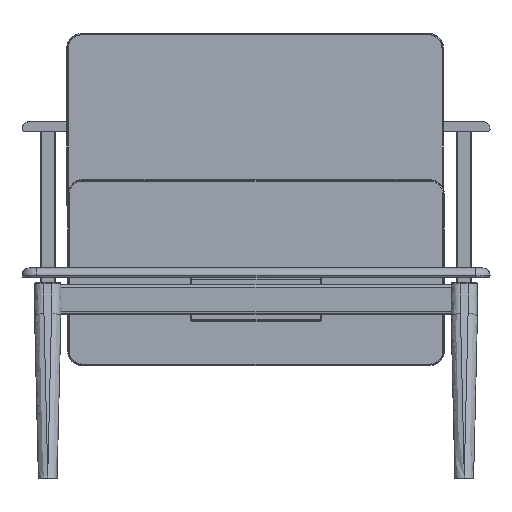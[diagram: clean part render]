
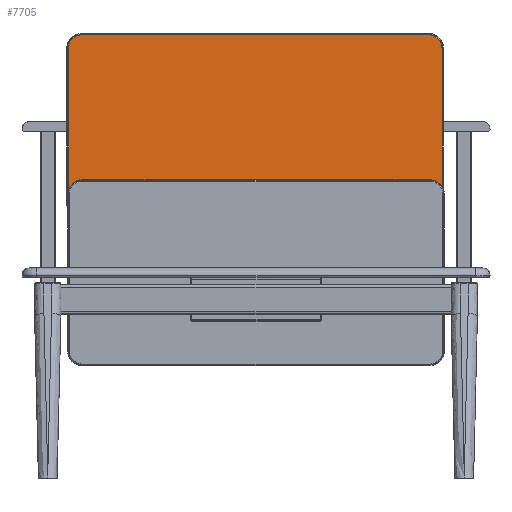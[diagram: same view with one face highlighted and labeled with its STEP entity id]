
A CAD part, front view. The second image highlights one B-rep face of the part: STEP entity #7705.
In plain terms, the highlighted planar face has unit normal (0, -1, 0).
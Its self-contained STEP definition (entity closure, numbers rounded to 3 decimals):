
#738 = CARTESIAN_POINT ( 'NONE',  ( -11.324, 1449.623, 1172.524 ) ) ;
#771 = FACE_OUTER_BOUND ( 'NONE', #2949, .T. ) ;
#1114 = CARTESIAN_POINT ( 'NONE',  ( 1190.885, 1449.623, 1174.868 ) ) ;
#1776 = CARTESIAN_POINT ( 'NONE',  ( 1190.885, 1449.623, 1174.868 ) ) ;
#1834 = B_SPLINE_CURVE_WITH_KNOTS ( 'NONE', 3,
 ( #15345, #23527, #19104, #25141, #738, #13892, #7451 ),
 .UNSPECIFIED., .F., .F.,
 ( 4, 1, 1, 1, 4 ),
 ( 0., 17.717, 36.913, 56.109, 73.826 ),
 .UNSPECIFIED. ) ;
#2568 = CARTESIAN_POINT ( 'NONE',  ( -40.117, 1449.623, 589.963 ) ) ;
#2769 = CARTESIAN_POINT ( 'NONE',  ( 1190.885, 1449.623, 548.868 ) ) ;
#2872 = CARTESIAN_POINT ( 'NONE',  ( -40.115, 1449.623, 595.868 ) ) ;
#2906 = CARTESIAN_POINT ( 'NONE',  ( 1235.541, 1449.623, 577.659 ) ) ;
#2943 = B_SPLINE_CURVE_WITH_KNOTS ( 'NONE', 1,
 ( #23480, #19717 ),
 .UNSPECIFIED., .F., .F.,
 ( 2, 2 ),
 ( 0., 532. ),
 .UNSPECIFIED. ) ;
#2949 = EDGE_LOOP ( 'NONE', ( #20427, #4882, #11690, #7690, #16192, #21720, #8472, #17803 ) ) ;
#3030 = EDGE_CURVE ( 'NONE', #19772, #8340, #2943, .T. ) ;
#4158 = B_SPLINE_CURVE_WITH_KNOTS ( 'NONE', 3,
 ( #6058, #24798, #4580, #22536, #12767, #2568, #20404 ),
 .UNSPECIFIED., .F., .F.,
 ( 4, 1, 1, 1, 4 ),
 ( 0., 17.717, 36.913, 56.109, 73.826 ),
 .UNSPECIFIED. ) ;
#4580 = CARTESIAN_POINT ( 'NONE',  ( -11.324, 1449.623, 551.213 ) ) ;
#4639 = AXIS2_PLACEMENT_3D ( 'NONE', #8953, #14589, #17113 ) ;
#4882 = ORIENTED_EDGE ( 'NONE', *, *, #13894, .F. ) ;
#6058 = CARTESIAN_POINT ( 'NONE',  ( 6.885, 1449.623, 548.868 ) ) ;
#6388 = EDGE_CURVE ( 'NONE', #19772, #14731, #18309, .T. ) ;
#6409 = PLANE ( 'NONE',  #4639 ) ;
#6507 = CARTESIAN_POINT ( 'NONE',  ( -40.115, 1449.623, 1127.868 ) ) ;
#6918 = CARTESIAN_POINT ( 'NONE',  ( 1225.058, 1449.623, 561.695 ) ) ;
#7451 = CARTESIAN_POINT ( 'NONE',  ( 6.885, 1449.623, 1174.868 ) ) ;
#7506 = CARTESIAN_POINT ( 'NONE',  ( 1190.885, 1449.623, 1174.868 ) ) ;
#7690 = ORIENTED_EDGE ( 'NONE', *, *, #21941, .T. ) ;
#7705 = ADVANCED_FACE ( 'NONE', ( #771 ), #6409, .T. ) ;
#8340 = VERTEX_POINT ( 'NONE', #10343 ) ;
#8472 = ORIENTED_EDGE ( 'NONE', *, *, #25449, .T. ) ;
#8953 = CARTESIAN_POINT ( 'NONE',  ( -43.115, 1449.623, 1177.868 ) ) ;
#9200 = CARTESIAN_POINT ( 'NONE',  ( 1196.79, 1449.623, 548.866 ) ) ;
#9817 = B_SPLINE_CURVE_WITH_KNOTS ( 'NONE', 3,
 ( #2769, #9200, #15478, #6918, #2906, #15209, #20996 ),
 .UNSPECIFIED., .F., .F.,
 ( 4, 1, 1, 1, 4 ),
 ( 0., 17.717, 36.913, 56.109, 73.826 ),
 .UNSPECIFIED. ) ;
#9971 = CARTESIAN_POINT ( 'NONE',  ( 1235.541, 1449.623, 1146.077 ) ) ;
#10287 = VERTEX_POINT ( 'NONE', #10410 ) ;
#10343 = CARTESIAN_POINT ( 'NONE',  ( 1237.885, 1449.623, 595.868 ) ) ;
#10410 = CARTESIAN_POINT ( 'NONE',  ( 1190.885, 1449.623, 548.868 ) ) ;
#10447 = CARTESIAN_POINT ( 'NONE',  ( 6.885, 1449.623, 548.868 ) ) ;
#11690 = ORIENTED_EDGE ( 'NONE', *, *, #19675, .F. ) ;
#12767 = CARTESIAN_POINT ( 'NONE',  ( -37.771, 1449.623, 577.659 ) ) ;
#13195 = CARTESIAN_POINT ( 'NONE',  ( -40.115, 1449.623, 1127.868 ) ) ;
#13309 = VERTEX_POINT ( 'NONE', #20979 ) ;
#13892 = CARTESIAN_POINT ( 'NONE',  ( 0.98, 1449.623, 1174.87 ) ) ;
#13894 = EDGE_CURVE ( 'NONE', #13309, #22086, #4158, .T. ) ;
#14121 = CARTESIAN_POINT ( 'NONE',  ( 1225.058, 1449.623, 1162.042 ) ) ;
#14231 = VERTEX_POINT ( 'NONE', #6507 ) ;
#14589 = DIRECTION ( 'NONE',  ( 0., -1., 0. ) ) ;
#14731 = VERTEX_POINT ( 'NONE', #1114 ) ;
#15209 = CARTESIAN_POINT ( 'NONE',  ( 1237.887, 1449.623, 589.963 ) ) ;
#15345 = CARTESIAN_POINT ( 'NONE',  ( -40.115, 1449.623, 1127.868 ) ) ;
#15478 = CARTESIAN_POINT ( 'NONE',  ( 1209.094, 1449.623, 551.213 ) ) ;
#15613 = CARTESIAN_POINT ( 'NONE',  ( -40.115, 1449.623, 595.868 ) ) ;
#15830 = CARTESIAN_POINT ( 'NONE',  ( 1209.094, 1449.623, 1172.524 ) ) ;
#16192 = ORIENTED_EDGE ( 'NONE', *, *, #3030, .F. ) ;
#16349 = B_SPLINE_CURVE_WITH_KNOTS ( 'NONE', 1,
 ( #20622, #10447 ),
 .UNSPECIFIED., .F., .F.,
 ( 2, 2 ),
 ( 0., 1184. ),
 .UNSPECIFIED. ) ;
#16360 = CARTESIAN_POINT ( 'NONE',  ( 1237.885, 1449.623, 1127.868 ) ) ;
#17113 = DIRECTION ( 'NONE',  ( 0., 0., -1. ) ) ;
#17803 = ORIENTED_EDGE ( 'NONE', *, *, #21992, .F. ) ;
#18309 = B_SPLINE_CURVE_WITH_KNOTS ( 'NONE', 3,
 ( #16360, #26417, #9971, #14121, #15830, #20135, #1776 ),
 .UNSPECIFIED., .F., .F.,
 ( 4, 1, 1, 1, 4 ),
 ( 0., 17.717, 36.913, 56.109, 73.826 ),
 .UNSPECIFIED. ) ;
#19104 = CARTESIAN_POINT ( 'NONE',  ( -37.771, 1449.623, 1146.077 ) ) ;
#19675 = EDGE_CURVE ( 'NONE', #10287, #13309, #16349, .T. ) ;
#19717 = CARTESIAN_POINT ( 'NONE',  ( 1237.885, 1449.623, 595.868 ) ) ;
#19772 = VERTEX_POINT ( 'NONE', #24452 ) ;
#20135 = CARTESIAN_POINT ( 'NONE',  ( 1196.79, 1449.623, 1174.87 ) ) ;
#20404 = CARTESIAN_POINT ( 'NONE',  ( -40.115, 1449.623, 595.868 ) ) ;
#20427 = ORIENTED_EDGE ( 'NONE', *, *, #22314, .T. ) ;
#20622 = CARTESIAN_POINT ( 'NONE',  ( 1190.885, 1449.623, 548.868 ) ) ;
#20979 = CARTESIAN_POINT ( 'NONE',  ( 6.885, 1449.623, 548.868 ) ) ;
#20996 = CARTESIAN_POINT ( 'NONE',  ( 1237.885, 1449.623, 595.868 ) ) ;
#21414 = B_SPLINE_CURVE_WITH_KNOTS ( 'NONE', 1,
 ( #7506, #23976 ),
 .UNSPECIFIED., .F., .F.,
 ( 2, 2 ),
 ( 0., 1184. ),
 .UNSPECIFIED. ) ;
#21720 = ORIENTED_EDGE ( 'NONE', *, *, #6388, .T. ) ;
#21890 = VERTEX_POINT ( 'NONE', #23259 ) ;
#21941 = EDGE_CURVE ( 'NONE', #10287, #8340, #9817, .T. ) ;
#21992 = EDGE_CURVE ( 'NONE', #14231, #21890, #1834, .T. ) ;
#22086 = VERTEX_POINT ( 'NONE', #15613 ) ;
#22314 = EDGE_CURVE ( 'NONE', #14231, #22086, #25408, .T. ) ;
#22536 = CARTESIAN_POINT ( 'NONE',  ( -27.288, 1449.623, 561.695 ) ) ;
#23259 = CARTESIAN_POINT ( 'NONE',  ( 6.885, 1449.623, 1174.868 ) ) ;
#23480 = CARTESIAN_POINT ( 'NONE',  ( 1237.885, 1449.623, 1127.868 ) ) ;
#23527 = CARTESIAN_POINT ( 'NONE',  ( -40.117, 1449.623, 1133.774 ) ) ;
#23976 = CARTESIAN_POINT ( 'NONE',  ( 6.885, 1449.623, 1174.868 ) ) ;
#24452 = CARTESIAN_POINT ( 'NONE',  ( 1237.885, 1449.623, 1127.868 ) ) ;
#24798 = CARTESIAN_POINT ( 'NONE',  ( 0.98, 1449.623, 548.866 ) ) ;
#25141 = CARTESIAN_POINT ( 'NONE',  ( -27.288, 1449.623, 1162.042 ) ) ;
#25408 = B_SPLINE_CURVE_WITH_KNOTS ( 'NONE', 1,
 ( #13195, #2872 ),
 .UNSPECIFIED., .F., .F.,
 ( 2, 2 ),
 ( 0., 532. ),
 .UNSPECIFIED. ) ;
#25449 = EDGE_CURVE ( 'NONE', #14731, #21890, #21414, .T. ) ;
#26417 = CARTESIAN_POINT ( 'NONE',  ( 1237.887, 1449.623, 1133.774 ) ) ;
